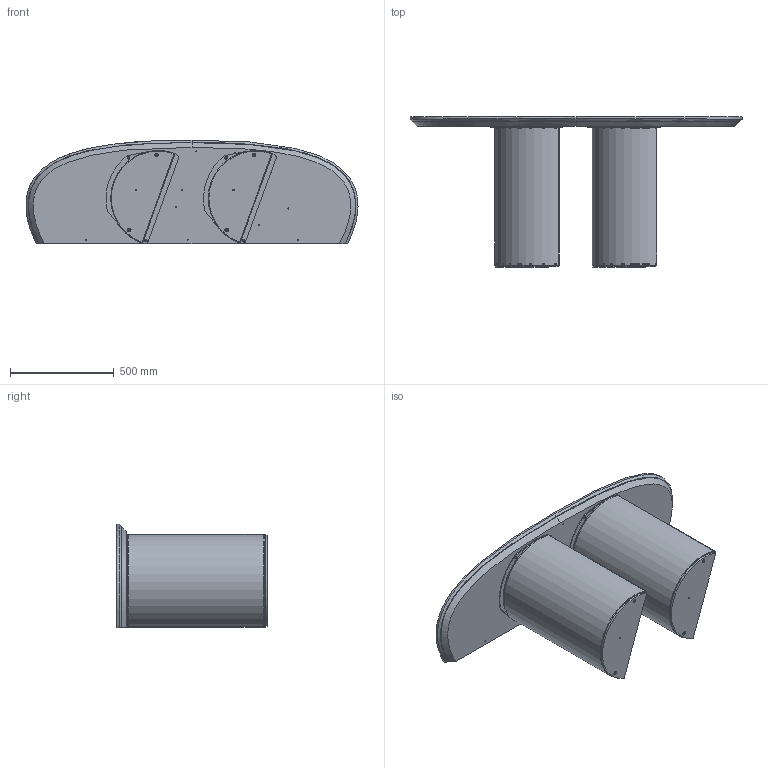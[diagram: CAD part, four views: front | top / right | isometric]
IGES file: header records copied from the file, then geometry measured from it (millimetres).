
Start section: SolidWorks IGES file using analytic representation for surfaces
Global section: file name: Y:\eforma\TECNICO\SOLIDWORKS\E-FORMA\3-CONSOLE\PLAI CONSOLE\02 parts\PL60G_Plai Console_160x50x72h_Glass Shaped.IGS; native system: SolidWorks 2022; preprocessor: SolidWorks 2022; author: eforma.tech; date: 240806.115725; units: millimetre
Bounding box: 1599.87 x 723 x 500 mm (x, y, z)
Volume: 37230505.7 mm3; surface area: 7223406.9 mm2
Topology: 18 solids, 18 shells, 398 faces, 912 edges, 526 vertices
Faces by surface type: revolution 244, plane 146, bspline 8
